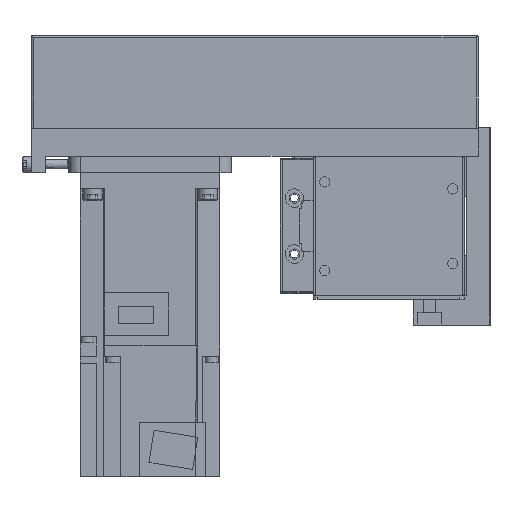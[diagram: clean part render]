
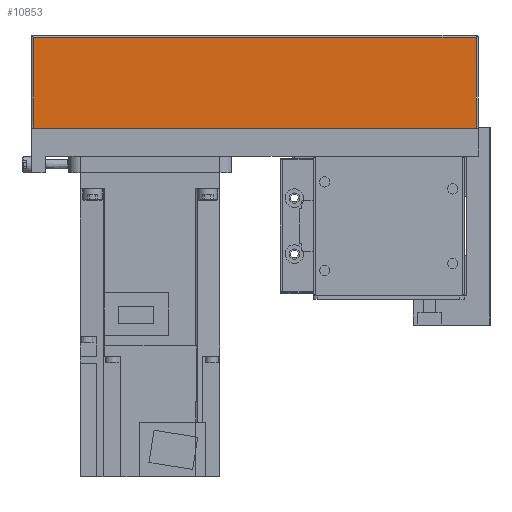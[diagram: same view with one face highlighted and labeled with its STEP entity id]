
A CAD part, left-side view. The second image highlights one B-rep face of the part: STEP entity #10853.
In plain terms, the highlighted planar face has unit normal (-1, 0, 0) as drawn and (1, 0, 0) by its records, which use the part's own axes.
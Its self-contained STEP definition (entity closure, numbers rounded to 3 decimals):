
#2526=ORIENTED_EDGE('',*,*,#4595,.T.);
#2527=ORIENTED_EDGE('',*,*,#4596,.T.);
#2528=ORIENTED_EDGE('',*,*,#4597,.F.);
#2529=ORIENTED_EDGE('',*,*,#4598,.F.);
#4595=EDGE_CURVE('',#5818,#5819,#6858,.T.);
#4596=EDGE_CURVE('',#5819,#5820,#6859,.T.);
#4597=EDGE_CURVE('',#5821,#5820,#6860,.T.);
#4598=EDGE_CURVE('',#5818,#5821,#6861,.T.);
#5818=VERTEX_POINT('',#17415);
#5819=VERTEX_POINT('',#17416);
#5820=VERTEX_POINT('',#17418);
#5821=VERTEX_POINT('',#17420);
#6858=LINE('',#17414,#7906);
#6859=LINE('',#17417,#7907);
#6860=LINE('',#17419,#7908);
#6861=LINE('',#17421,#7909);
#7906=VECTOR('',#14230,1000.);
#7907=VECTOR('',#14231,1000.);
#7908=VECTOR('',#14232,1000.);
#7909=VECTOR('',#14233,1000.);
#8901=EDGE_LOOP('',(#2526,#2527,#2528,#2529));
#9775=FACE_BOUND('',#8901,.T.);
#10323=PLANE('',#11840);
#10853=ADVANCED_FACE('',(#9775),#10323,.T.);
#11840=AXIS2_PLACEMENT_3D('',#17413,#14228,#14229);
#14228=DIRECTION('',(1.,0.,0.));
#14229=DIRECTION('',(0.,0.,-1.));
#14230=DIRECTION('',(0.,0.,1.));
#14231=DIRECTION('',(0.,-1.,0.));
#14232=DIRECTION('',(0.,0.,1.));
#14233=DIRECTION('',(0.,-1.,0.));
#17413=CARTESIAN_POINT('',(40.,-41.,-52.));
#17414=CARTESIAN_POINT('',(40.,150.,-64.));
#17415=CARTESIAN_POINT('',(40.,150.,-51.));
#17416=CARTESIAN_POINT('',(40.,150.,-12.01));
#17417=CARTESIAN_POINT('',(40.,-41.,-12.01));
#17418=CARTESIAN_POINT('',(40.,-40.,-12.01));
#17419=CARTESIAN_POINT('',(40.,-40.,-64.));
#17420=CARTESIAN_POINT('',(40.,-40.,-51.));
#17421=CARTESIAN_POINT('',(40.,200.,-51.));
